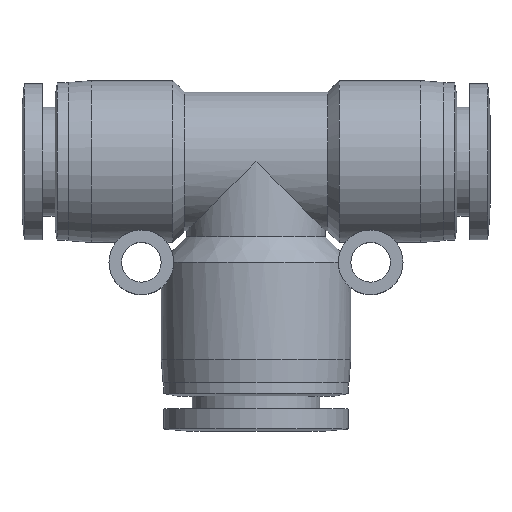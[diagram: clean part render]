
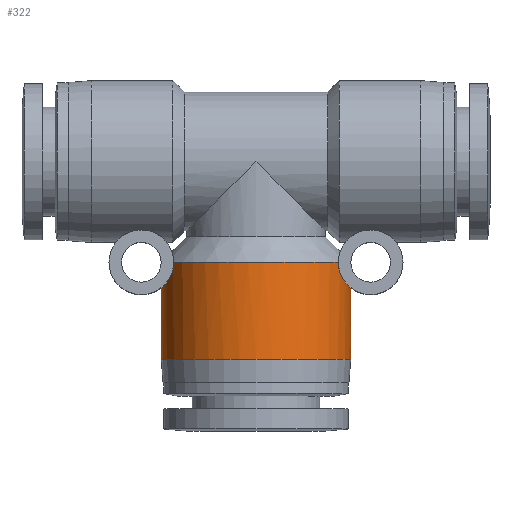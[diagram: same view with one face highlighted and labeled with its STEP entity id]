
A CAD part, top view. The second image highlights one B-rep face of the part: STEP entity #322.
In plain terms, the highlighted cylindrical face has radius 10.25 mm (diameter 20.5 mm), a partial arc.
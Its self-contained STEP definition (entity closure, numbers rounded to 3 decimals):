
#94 = CARTESIAN_POINT ( 'NONE',  ( -9.047, -11.915, 4.819 ) ) ;
#120 = AXIS2_PLACEMENT_3D ( 'NONE', #2842, #1370, #681 ) ;
#123 = CARTESIAN_POINT ( 'NONE',  ( -9.733, -13.166, 3.215 ) ) ;
#137 = CARTESIAN_POINT ( 'NONE',  ( -10.25, -13.662, 0.641 ) ) ;
#146 = CYLINDRICAL_SURFACE ( 'NONE', #120, 10.25 ) ;
#170 = CARTESIAN_POINT ( 'NONE',  ( -9.875, -13.333, 2.784 ) ) ;
#184 = ORIENTED_EDGE ( 'NONE', *, *, #1217, .T. ) ;
#186 = ORIENTED_EDGE ( 'NONE', *, *, #625, .F. ) ;
#196 = B_SPLINE_CURVE_WITH_KNOTS ( 'NONE', 3,
 ( #1327, #2774, #2283, #594, #853, #1811, #624, #1546, #385, #1201, #1609, #1393, #686, #1844, #1878, #1440, #2576, #3108, #2106, #1627, #2389, #238, #2622, #2150, #700, #2120, #2591, #1139, #471, #1660, #655 ),
 .UNSPECIFIED., .F., .F.,
 ( 4, 2, 2, 2, 1, 1, 1, 2, 2, 2, 2, 1, 1, 1, 1, 2, 2, 2, 4 ),
 ( 0.5, 0.625, 0.687, 0.719, 0.734, 0.742, 0.746, 0.748, 0.75, 0.812, 0.844, 0.859, 0.867, 0.871, 0.873, 0.874, 0.875, 0.937, 1. ),
 .UNSPECIFIED. ) ;
#229 = CARTESIAN_POINT ( 'NONE',  ( 10.25, -16.15, 0. ) ) ;
#232 = ORIENTED_EDGE ( 'NONE', *, *, #2624, .T. ) ;
#238 = CARTESIAN_POINT ( 'NONE',  ( 9.239, -12.404, 4.438 ) ) ;
#298 = CARTESIAN_POINT ( 'NONE',  ( -9.512, -12.879, 3.822 ) ) ;
#310 = EDGE_CURVE ( 'NONE', #650, #1358, #2836, .T. ) ;
#315 = CARTESIAN_POINT ( 'NONE',  ( -8.9, -11.171, 5.084 ) ) ;
#322 = ADVANCED_FACE ( 'NONE', ( #2046 ), #146, .T. ) ;
#355 = CARTESIAN_POINT ( 'NONE',  ( -9.696, -13.122, 3.325 ) ) ;
#385 = CARTESIAN_POINT ( 'NONE',  ( 9.795, -13.238, 3.02 ) ) ;
#453 = DIRECTION ( 'NONE',  ( 0., -1., 0. ) ) ;
#471 = CARTESIAN_POINT ( 'NONE',  ( 8.929, -11.429, 5.035 ) ) ;
#502 = CARTESIAN_POINT ( 'NONE',  ( 8.9, -10.9, 5.085 ) ) ;
#582 = CARTESIAN_POINT ( 'NONE',  ( -9.298, -12.531, 4.318 ) ) ;
#594 = CARTESIAN_POINT ( 'NONE',  ( 10.049, -13.497, 2.036 ) ) ;
#610 = CARTESIAN_POINT ( 'NONE',  ( -9.729, -13.162, 3.225 ) ) ;
#624 = CARTESIAN_POINT ( 'NONE',  ( 9.87, -13.32, 2.767 ) ) ;
#625 = EDGE_CURVE ( 'NONE', #793, #2511, #2727, .T. ) ;
#649 = CARTESIAN_POINT ( 'NONE',  ( 0., -10.9, 0. ) ) ;
#650 = VERTEX_POINT ( 'NONE', #502 ) ;
#655 = CARTESIAN_POINT ( 'NONE',  ( 8.9, -10.9, 5.085 ) ) ;
#681 = DIRECTION ( 'NONE',  ( 1., 0., 0. ) ) ;
#686 = CARTESIAN_POINT ( 'NONE',  ( 9.739, -13.174, 3.195 ) ) ;
#700 = CARTESIAN_POINT ( 'NONE',  ( 9.225, -12.374, 4.467 ) ) ;
#701 = DIRECTION ( 'NONE',  ( 0., -1., 0. ) ) ;
#715 = ORIENTED_EDGE ( 'NONE', *, *, #310, .T. ) ;
#793 = VERTEX_POINT ( 'NONE', #1838 ) ;
#853 = CARTESIAN_POINT ( 'NONE',  ( 9.994, -13.446, 2.29 ) ) ;
#860 = LINE ( 'NONE', #1383, #1712 ) ;
#912 = B_SPLINE_CURVE_WITH_KNOTS ( 'NONE', 3,
 ( #1784, #315, #2229, #1994, #94, #1243, #2008, #2197, #1003, #1770, #1977, #1959, #1486, #2933, #582, #2451, #298, #1259, #2212, #2950, #355, #1563, #1380, #610, #123, #170, #1862, #1798, #137, #2561 ),
 .UNSPECIFIED., .F., .F.,
 ( 4, 2, 2, 2, 1, 1, 1, 2, 2, 2, 2, 1, 1, 1, 2, 2, 2, 4 ),
 ( 0., 0.063, 0.094, 0.109, 0.117, 0.121, 0.123, 0.124, 0.125, 0.188, 0.219, 0.234, 0.242, 0.246, 0.248, 0.25, 0.375, 0.5 ),
 .UNSPECIFIED. ) ;
#941 = EDGE_CURVE ( 'NONE', #1358, #1826, #912, .T. ) ;
#1003 = CARTESIAN_POINT ( 'NONE',  ( -9.18, -12.272, 4.56 ) ) ;
#1139 = CARTESIAN_POINT ( 'NONE',  ( 9.04, -11.918, 4.832 ) ) ;
#1201 = CARTESIAN_POINT ( 'NONE',  ( 9.765, -13.204, 3.115 ) ) ;
#1217 = EDGE_CURVE ( 'NONE', #1818, #650, #196, .T. ) ;
#1243 = CARTESIAN_POINT ( 'NONE',  ( -9.107, -12.089, 4.704 ) ) ;
#1259 = CARTESIAN_POINT ( 'NONE',  ( -9.556, -12.942, 3.71 ) ) ;
#1320 = VECTOR ( 'NONE', #2615, 1000. ) ;
#1327 = CARTESIAN_POINT ( 'NONE',  ( 10.25, -13.662, 0. ) ) ;
#1358 = VERTEX_POINT ( 'NONE', #1922 ) ;
#1370 = DIRECTION ( 'NONE',  ( 0., -1., 0. ) ) ;
#1380 = CARTESIAN_POINT ( 'NONE',  ( -9.724, -13.156, 3.242 ) ) ;
#1383 = CARTESIAN_POINT ( 'NONE',  ( -10.25, -16.15, 0. ) ) ;
#1393 = CARTESIAN_POINT ( 'NONE',  ( 9.744, -13.179, 3.182 ) ) ;
#1440 = CARTESIAN_POINT ( 'NONE',  ( 9.555, -12.946, 3.717 ) ) ;
#1486 = CARTESIAN_POINT ( 'NONE',  ( -9.22, -12.362, 4.479 ) ) ;
#1546 = CARTESIAN_POINT ( 'NONE',  ( 9.821, -13.266, 2.937 ) ) ;
#1563 = CARTESIAN_POINT ( 'NONE',  ( -9.715, -13.146, 3.267 ) ) ;
#1609 = CARTESIAN_POINT ( 'NONE',  ( 9.75, -13.187, 3.162 ) ) ;
#1627 = CARTESIAN_POINT ( 'NONE',  ( 9.29, -12.508, 4.331 ) ) ;
#1631 = EDGE_CURVE ( 'NONE', #1818, #793, #1867, .T. ) ;
#1660 = CARTESIAN_POINT ( 'NONE',  ( 8.9, -11.171, 5.084 ) ) ;
#1661 = DIRECTION ( 'NONE',  ( 1., 0., 0. ) ) ;
#1712 = VECTOR ( 'NONE', #3043, 1000. ) ;
#1720 = AXIS2_PLACEMENT_3D ( 'NONE', #649, #453, #1839 ) ;
#1770 = CARTESIAN_POINT ( 'NONE',  ( -9.201, -12.321, 4.517 ) ) ;
#1784 = CARTESIAN_POINT ( 'NONE',  ( -8.9, -10.9, 5.085 ) ) ;
#1788 = CARTESIAN_POINT ( 'NONE',  ( -10.25, -21.4, 0. ) ) ;
#1798 = CARTESIAN_POINT ( 'NONE',  ( -10.19, -13.621, 1.233 ) ) ;
#1811 = CARTESIAN_POINT ( 'NONE',  ( 9.902, -13.354, 2.65 ) ) ;
#1818 = VERTEX_POINT ( 'NONE', #2232 ) ;
#1824 = ORIENTED_EDGE ( 'NONE', *, *, #1631, .F. ) ;
#1826 = VERTEX_POINT ( 'NONE', #2953 ) ;
#1838 = CARTESIAN_POINT ( 'NONE',  ( 10.25, -21.4, 0. ) ) ;
#1839 = DIRECTION ( 'NONE',  ( 1., 0., 0. ) ) ;
#1844 = CARTESIAN_POINT ( 'NONE',  ( 9.738, -13.172, 3.2 ) ) ;
#1862 = CARTESIAN_POINT ( 'NONE',  ( -10.002, -13.456, 2.305 ) ) ;
#1867 = LINE ( 'NONE', #229, #1320 ) ;
#1878 = CARTESIAN_POINT ( 'NONE',  ( 9.646, -13.065, 3.478 ) ) ;
#1922 = CARTESIAN_POINT ( 'NONE',  ( -8.9, -10.9, 5.085 ) ) ;
#1959 = CARTESIAN_POINT ( 'NONE',  ( -9.217, -12.355, 4.485 ) ) ;
#1977 = CARTESIAN_POINT ( 'NONE',  ( -9.212, -12.345, 4.495 ) ) ;
#1994 = CARTESIAN_POINT ( 'NONE',  ( -9.012, -11.796, 4.883 ) ) ;
#2008 = CARTESIAN_POINT ( 'NONE',  ( -9.128, -12.146, 4.663 ) ) ;
#2046 = FACE_OUTER_BOUND ( 'NONE', #2541, .T. ) ;
#2106 = CARTESIAN_POINT ( 'NONE',  ( 9.32, -12.564, 4.266 ) ) ;
#2120 = CARTESIAN_POINT ( 'NONE',  ( 9.224, -12.372, 4.469 ) ) ;
#2150 = CARTESIAN_POINT ( 'NONE',  ( 9.228, -12.379, 4.463 ) ) ;
#2176 = AXIS2_PLACEMENT_3D ( 'NONE', #2865, #701, #1661 ) ;
#2197 = CARTESIAN_POINT ( 'NONE',  ( -9.162, -12.23, 4.595 ) ) ;
#2212 = CARTESIAN_POINT ( 'NONE',  ( -9.623, -13.031, 3.53 ) ) ;
#2229 = CARTESIAN_POINT ( 'NONE',  ( -8.929, -11.429, 5.035 ) ) ;
#2232 = CARTESIAN_POINT ( 'NONE',  ( 10.25, -13.662, 0. ) ) ;
#2283 = CARTESIAN_POINT ( 'NONE',  ( 10.19, -13.621, 1.233 ) ) ;
#2389 = CARTESIAN_POINT ( 'NONE',  ( 9.256, -12.439, 4.403 ) ) ;
#2451 = CARTESIAN_POINT ( 'NONE',  ( -9.381, -12.679, 4.137 ) ) ;
#2511 = VERTEX_POINT ( 'NONE', #1788 ) ;
#2541 = EDGE_LOOP ( 'NONE', ( #2558, #232, #186, #1824, #184, #715 ) ) ;
#2558 = ORIENTED_EDGE ( 'NONE', *, *, #941, .T. ) ;
#2561 = CARTESIAN_POINT ( 'NONE',  ( -10.25, -13.662, 0. ) ) ;
#2576 = CARTESIAN_POINT ( 'NONE',  ( 9.425, -12.746, 4.032 ) ) ;
#2591 = CARTESIAN_POINT ( 'NONE',  ( 9.122, -12.15, 4.68 ) ) ;
#2615 = DIRECTION ( 'NONE',  ( 0., -1., 0. ) ) ;
#2622 = CARTESIAN_POINT ( 'NONE',  ( 9.231, -12.386, 4.455 ) ) ;
#2624 = EDGE_CURVE ( 'NONE', #1826, #2511, #860, .T. ) ;
#2727 = CIRCLE ( 'NONE', #2176, 10.25 ) ;
#2774 = CARTESIAN_POINT ( 'NONE',  ( 10.25, -13.662, 0.641 ) ) ;
#2836 = CIRCLE ( 'NONE', #1720, 10.25 ) ;
#2842 = CARTESIAN_POINT ( 'NONE',  ( 0., -16.15, 0. ) ) ;
#2865 = CARTESIAN_POINT ( 'NONE',  ( 0., -21.4, 0. ) ) ;
#2933 = CARTESIAN_POINT ( 'NONE',  ( -9.222, -12.366, 4.475 ) ) ;
#2950 = CARTESIAN_POINT ( 'NONE',  ( -9.657, -13.074, 3.438 ) ) ;
#2953 = CARTESIAN_POINT ( 'NONE',  ( -10.25, -13.662, 0. ) ) ;
#3043 = DIRECTION ( 'NONE',  ( 0., -1., 0. ) ) ;
#3108 = CARTESIAN_POINT ( 'NONE',  ( 9.382, -12.675, 4.129 ) ) ;
